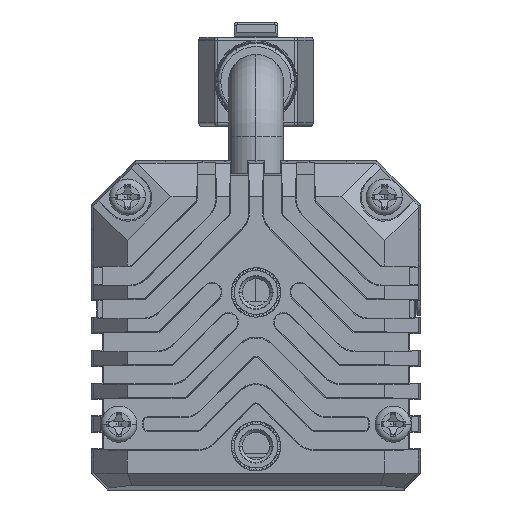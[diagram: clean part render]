
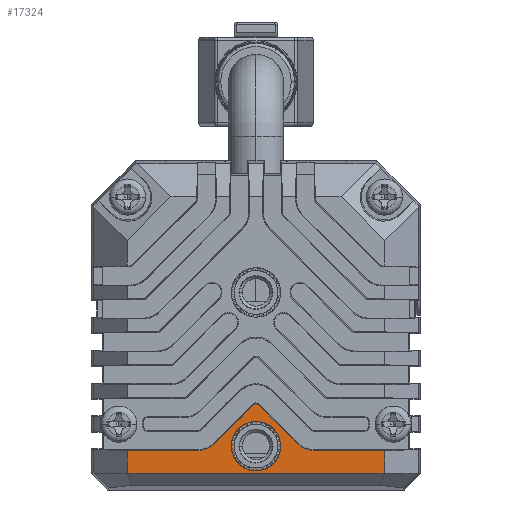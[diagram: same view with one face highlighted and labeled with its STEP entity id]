
A CAD part, left-side view. The second image highlights one B-rep face of the part: STEP entity #17324.
In plain terms, the highlighted planar face has unit normal (-1, 0, 0) as drawn and (1, 0, 0) by its records, which use the part's own axes.
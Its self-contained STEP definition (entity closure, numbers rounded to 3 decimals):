
#10232=CARTESIAN_POINT('',(5.,0.,7.527));
#10233=DIRECTION('',(1.,0.,0.));
#10234=DIRECTION('',(0.,0.707,0.707));
#10235=AXIS2_PLACEMENT_3D('',#10232,#10233,#10234);
#10241=DIRECTION('',(0.,0.707,-0.707));
#10242=VECTOR('',#10241,5.013);
#10243=CARTESIAN_POINT('',(5.,0.242,7.769));
#10244=LINE('',#10243,#10242);
#10248=DIRECTION('',(0.,-1.,0.));
#10249=VECTOR('',#10248,6.438);
#10250=CARTESIAN_POINT('',(5.,11.75,3.593));
#10251=LINE('',#10250,#10249);
#10255=DIRECTION('',(0.,0.,1.));
#10256=VECTOR('',#10255,2.093);
#10257=CARTESIAN_POINT('',(5.,11.75,1.5));
#10258=LINE('',#10257,#10256);
#10262=DIRECTION('',(0.,1.,0.));
#10263=VECTOR('',#10262,23.5);
#10264=CARTESIAN_POINT('',(5.,-11.75,1.5));
#10265=LINE('',#10264,#10263);
#10269=DIRECTION('',(0.,0.,-1.));
#10270=VECTOR('',#10269,2.093);
#10271=CARTESIAN_POINT('',(5.,-11.75,3.593));
#10272=LINE('',#10271,#10270);
#10276=DIRECTION('',(0.,1.,0.));
#10277=VECTOR('',#10276,6.438);
#10278=CARTESIAN_POINT('',(5.,-11.75,3.593));
#10279=LINE('',#10278,#10277);
#10283=DIRECTION('',(0.,0.707,0.707));
#10284=VECTOR('',#10283,5.013);
#10285=CARTESIAN_POINT('',(5.,-3.787,4.225));
#10286=LINE('',#10285,#10284);
#10290=CARTESIAN_POINT('',(5.,0.,4.));
#10291=DIRECTION('',(1.,0.,0.));
#10292=DIRECTION('',(0.,1.,0.));
#10293=AXIS2_PLACEMENT_3D('',#10290,#10291,#10292);
#10298=CARTESIAN_POINT('',(5.,0.,4.));
#10299=DIRECTION('',(1.,0.,0.));
#10300=DIRECTION('',(0.,-1.,0.));
#10301=AXIS2_PLACEMENT_3D('',#10298,#10299,#10300);
#11027=CARTESIAN_POINT('',(5.,-5.312,5.75));
#11028=DIRECTION('',(-1.,0.,0.));
#11029=DIRECTION('',(0.,0.707,-0.707));
#11030=AXIS2_PLACEMENT_3D('',#11027,#11028,#11029);
#14546=CARTESIAN_POINT('',(5.,5.312,5.75));
#14547=DIRECTION('',(-1.,0.,0.));
#14548=DIRECTION('',(0.,0.,-1.));
#14549=AXIS2_PLACEMENT_3D('',#14546,#14547,#14548);
#16219=CARTESIAN_POINT('',(5.,2.,4.));
#16220=CARTESIAN_POINT('',(5.,-2.,4.));
#16221=VERTEX_POINT('',#16219);
#16222=VERTEX_POINT('',#16220);
#16223=CARTESIAN_POINT('',(5.,-11.75,1.5));
#16224=CARTESIAN_POINT('',(5.,11.75,1.5));
#16225=VERTEX_POINT('',#16223);
#16226=VERTEX_POINT('',#16224);
#16325=CARTESIAN_POINT('',(5.,5.312,3.593));
#16326=VERTEX_POINT('',#16325);
#16327=CARTESIAN_POINT('',(5.,3.787,4.225));
#16328=VERTEX_POINT('',#16327);
#16333=CARTESIAN_POINT('',(5.,-3.787,4.225));
#16334=VERTEX_POINT('',#16333);
#16335=CARTESIAN_POINT('',(5.,-5.312,3.593));
#16336=VERTEX_POINT('',#16335);
#16413=CARTESIAN_POINT('',(5.,-11.75,3.593));
#16414=VERTEX_POINT('',#16413);
#16415=CARTESIAN_POINT('',(5.,11.75,3.593));
#16416=VERTEX_POINT('',#16415);
#16433=CARTESIAN_POINT('',(5.,0.242,7.769));
#16434=CARTESIAN_POINT('',(5.,-0.242,7.769));
#16435=VERTEX_POINT('',#16433);
#16436=VERTEX_POINT('',#16434);
#17291=CARTESIAN_POINT('',(5.,0.,0.));
#17292=DIRECTION('',(1.,0.,0.));
#17293=DIRECTION('',(0.,1.,0.));
#17294=AXIS2_PLACEMENT_3D('',#17291,#17292,#17293);
#17295=PLANE('',#17294);
#17297=ORIENTED_EDGE('',*,*,#17296,.F.);
#17299=ORIENTED_EDGE('',*,*,#17298,.T.);
#17301=ORIENTED_EDGE('',*,*,#17300,.F.);
#17303=ORIENTED_EDGE('',*,*,#17302,.F.);
#17305=ORIENTED_EDGE('',*,*,#17304,.F.);
#17307=ORIENTED_EDGE('',*,*,#17306,.F.);
#17309=ORIENTED_EDGE('',*,*,#17308,.F.);
#17311=ORIENTED_EDGE('',*,*,#17310,.T.);
#17313=ORIENTED_EDGE('',*,*,#17312,.F.);
#17315=ORIENTED_EDGE('',*,*,#17314,.T.);
#17316=EDGE_LOOP('',(#17297,#17299,#17301,#17303,#17305,#17307,#17309,#17311,
#17313,#17315));
#17317=FACE_OUTER_BOUND('',#17316,.F.);
#17319=ORIENTED_EDGE('',*,*,#17318,.T.);
#17321=ORIENTED_EDGE('',*,*,#17320,.T.);
#17322=EDGE_LOOP('',(#17319,#17321));
#17323=FACE_BOUND('',#17322,.F.);
#10236=CIRCLE('',#10235,0.343);
#10294=CIRCLE('',#10293,2.);
#10302=CIRCLE('',#10301,2.);
#11031=CIRCLE('',#11030,2.157);
#14550=CIRCLE('',#14549,2.157);
#17296=EDGE_CURVE('',#16435,#16436,#10236,.T.);
#17298=EDGE_CURVE('',#16435,#16328,#10244,.T.);
#17300=EDGE_CURVE('',#16326,#16328,#14550,.T.);
#17302=EDGE_CURVE('',#16416,#16326,#10251,.T.);
#17304=EDGE_CURVE('',#16226,#16416,#10258,.T.);
#17306=EDGE_CURVE('',#16225,#16226,#10265,.T.);
#17308=EDGE_CURVE('',#16414,#16225,#10272,.T.);
#17310=EDGE_CURVE('',#16414,#16336,#10279,.T.);
#17312=EDGE_CURVE('',#16334,#16336,#11031,.T.);
#17314=EDGE_CURVE('',#16334,#16436,#10286,.T.);
#17318=EDGE_CURVE('',#16221,#16222,#10294,.T.);
#17320=EDGE_CURVE('',#16222,#16221,#10302,.T.);
#17324=ADVANCED_FACE('',(#17317,#17323),#17295,.T.);
